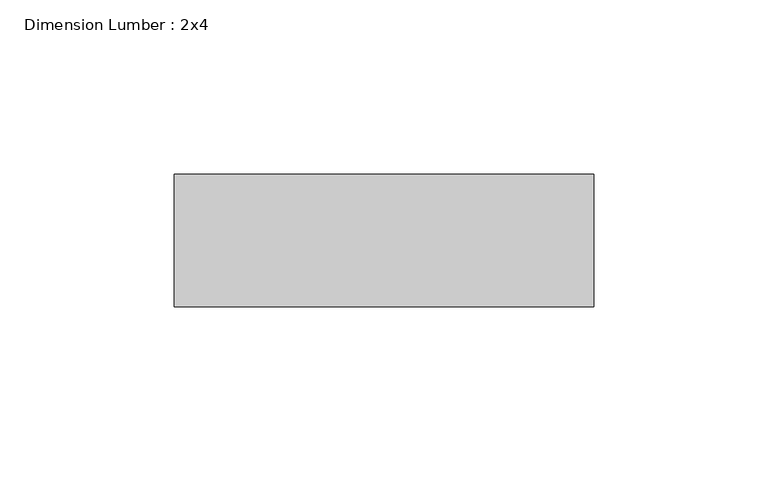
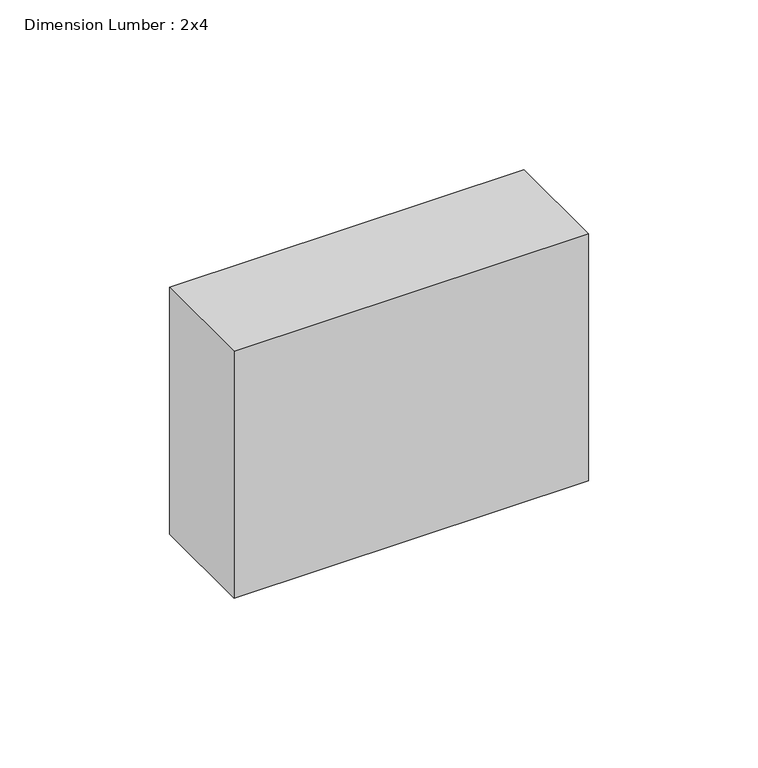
"""IFC4 building model written with IfcOpenShell, lengths in millimetres: beam geometry, Dimension Lumber : 2x4."""

from ifc_helpers import new_model, si_unit, frame, origin, place, context, project, spatial, polyline, outline, extrude, source, transform, mapped, element, save


def dimension_lumber_2x4_2717d3b6(model_context):
    return source(origin(), model_context, "Body", "SweptSolid", [
        extrude(outline(polyline([(60.325, 19.05), (60.325, -19.05), (-60.325, -19.05), (-60.325, 19.05), (60.325, 19.05)])), frame((0.0, 0.0, -44.45), z_axis=(0.0, 0.0, 1.0), x_axis=(1.0, 0.0, 0.0)), (0.0, 0.0, 1.0), 88.9),
    ])


if __name__ == "__main__":
    model = new_model("IFC4")
    model_context = context("Model", 3, world=origin())
    ifc_project = project(units=[si_unit("LENGTHUNIT", "METRE", prefix="MILLI")], contexts=[model_context])
    site = spatial("IfcSite", under=ifc_project)
    building = spatial("IfcBuilding", under=site)
    placement = place(None, origin())
    dimension_lumber_2x4_shape = dimension_lumber_2x4_2717d3b6(model_context)
    element("IfcBeam", 1, ObjectType="Dimension Lumber : 2x4", at=placement, inside=building, context=model_context, shape_type="MappedRepresentation", body=[
        mapped(dimension_lumber_2x4_shape, transform((0.0, 0.0, 0.0), x_axis=(1.0, 0.0, 0.0), y_axis=(0.0, 1.0, 0.0), z_axis=(0.0, 0.0, 1.0))),
    ])
    save(model, "model.ifc")
